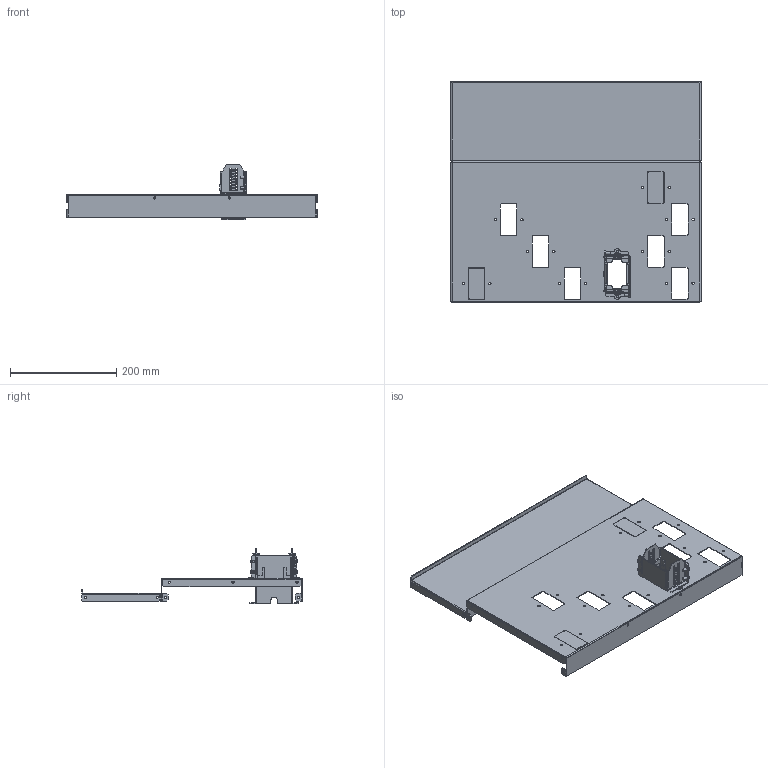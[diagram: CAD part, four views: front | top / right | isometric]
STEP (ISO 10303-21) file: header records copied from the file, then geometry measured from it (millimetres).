
FILE_DESCRIPTION(('CAx-IF Rec.Pracs.---Model Styling and Organization---1.2---2011-12-15','CAx-IF Rec.Pracs.---Geometric and Assembly Validation Properties---4.1---2014-06-16','CAx-IF Rec.Pracs.---PMI Polyline Presentation---2.0---2013-05-24'),'2;1');
FILE_NAME('R5M2W9M1BR66.stp','2021-05-05T12:37:51+03:00',(''),(''),'STEP Interface 4.4 by CT CoreTechnologie','3D_Evolution4.4 by CT CoreTechnologie','');
FILE_SCHEMA(('AUTOMOTIVE_DESIGN { 1 0 10303 214 1 1 1 1 }'));
Length unit declared in the file: millimetre
Products named in the file (9): R5M2W9M1BR66; RB.1567.00.00.0_-00; RB.1765.00.00.0 ÑÁ; RB.1570.00.00.0; RB.1569.00.00.1_-00; RB.1571.00.00.0_In prestressed condition - 40 mm; M5x8-DIN7500C_stright; RB.1506.00.00.0_-07; RB.1507.00.00.0_-02
Assembly tree (14 placements, depth 3):
  R5M2W9M1BR66
    RB.1567.00.00.0_-00
    RB.1765.00.00.0 ÑÁ
      RB.1570.00.00.0  x2
      RB.1569.00.00.1_-00  x2
      RB.1571.00.00.0_In prestressed condition - 40 mm  x2
      M5x8-DIN7500C_stright  x4
    RB.1506.00.00.0_-07
    RB.1507.00.00.0_-02
Bounding box: 470 x 414.2 x 103.8 mm (x, y, z)
Surface area: 550424.2 mm2 (no closed solid volume)
Topology: 0 solids, 22 shells, 766 faces, 2025 edges, 1303 vertices
Faces by surface type: plane 496, cylinder 240, bspline 30
Entity records: 20095 total; most frequent: CARTESIAN_POINT 4741, DIRECTION 3077, ORIENTED_EDGE 3070, EDGE_CURVE 1535, VECTOR 1115, LINE 1115, VERTEX_POINT 985, AXIS2_PLACEMENT_3D 981
